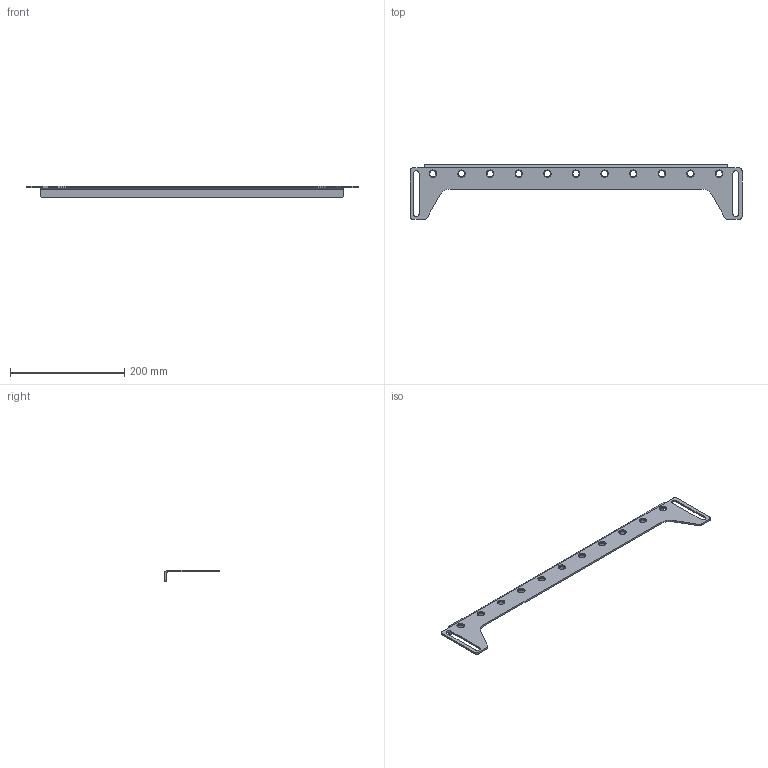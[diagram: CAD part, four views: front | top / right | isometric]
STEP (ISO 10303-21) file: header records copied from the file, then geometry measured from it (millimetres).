
FILE_DESCRIPTION (( 'STEP AP203' ), '1' );
FILE_NAME ('ORW-72.24.002 Ïåðåêëàäèíà.STEP', '2025-10-13T13:18:11', ( 'Àíäðåé' ), ( '' ), 'SwSTEP 2.0', 'SolidWorks 2025', '' );
FILE_SCHEMA (( 'CONFIG_CONTROL_DESIGN' ));
Length unit declared in the file: millimetre
Products named in the file (1): ORW-72.24.002 Перекладина_-01
Bounding box: 580 x 96 x 20 mm (x, y, z)
Volume: 103701.2 mm3; surface area: 75499.3 mm2
Topology: 1 solids, 1 shells, 60 faces, 166 edges, 108 vertices
Faces by surface type: cylinder 27, plane 22, cone 11
Full cylindrical faces by diameter (mm): 10.9 x11
Entity records: 1849 total; most frequent: DIRECTION 320, CARTESIAN_POINT 291, ORIENTED_EDGE 266, EDGE_CURVE 133, AXIS2_PLACEMENT_3D 126, EDGE_LOOP 108, VERTEX_POINT 97, FACE_OUTER_BOUND 71
